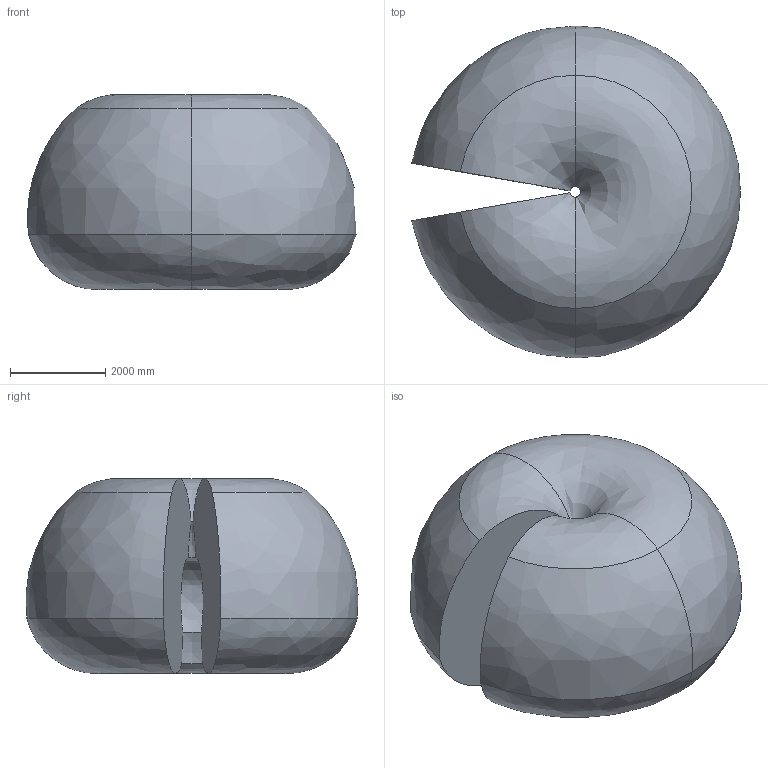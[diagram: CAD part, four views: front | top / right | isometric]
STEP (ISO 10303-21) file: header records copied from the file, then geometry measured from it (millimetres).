
FILE_DESCRIPTION (( 'STEP AP214' ), '1' );
FILE_NAME ('IRB8700_800-350_IRC5_WORKING_AREA.STEP', '2019-01-22T11:47:39', ( 'ABB' ), ( 'ABB' ), 'SwSTEP 2.0', 'SolidWorks 2016', '' );
FILE_SCHEMA (( 'AUTOMOTIVE_DESIGN' ));
Length unit declared in the file: millimetre
Products named in the file (1): IRB8700_800-350_IRC5_WORKING_AREA
Bounding box: 6901.17 x 6966.88 x 4092.88 mm (x, y, z)
Volume: 106585541854.8 mm3; surface area: 155173134.6 mm2
Topology: 1 solids, 1 shells, 20 faces, 42 edges, 24 vertices
Faces by surface type: bspline 18, plane 2
Entity records: 1706 total; most frequent: CARTESIAN_POINT 1095, ORIENTED_EDGE 84, DIRECTION 66, EDGE_CURVE 42, AXIS2_PLACEMENT_3D 33, CIRCLE 30, VERTEX_POINT 24, UNCERTAINTY_MEASURE_WITH_UNIT 23
